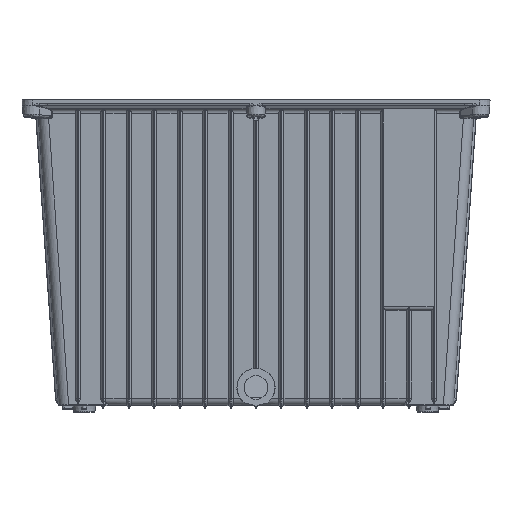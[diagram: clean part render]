
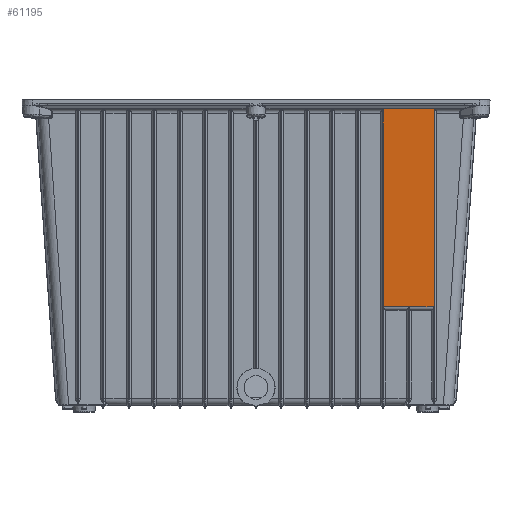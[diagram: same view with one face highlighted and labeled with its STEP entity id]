
A CAD part, top view. The second image highlights one B-rep face of the part: STEP entity #61195.
In plain terms, the highlighted planar face has unit normal (0, -0.07, 0.998).
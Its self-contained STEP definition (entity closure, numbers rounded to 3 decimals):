
#11126=DIRECTION('',(-1.,0.,0.));
#11127=VECTOR('',#11126,40.);
#11128=CARTESIAN_POINT('',(140.,-7.12,134.507));
#11129=LINE('',#11128,#11127);
#18593=DIRECTION('',(1.,0.,0.));
#18594=VECTOR('',#18593,20.);
#18595=CARTESIAN_POINT('',(100.,-162.603,123.635));
#18596=LINE('',#18595,#18594);
#18597=DIRECTION('',(1.,0.,0.));
#18598=VECTOR('',#18597,20.);
#18599=CARTESIAN_POINT('',(120.,-162.603,123.635));
#18600=LINE('',#18599,#18598);
#18743=DIRECTION('',(0.,-0.998,-0.07));
#18744=VECTOR('',#18743,155.863);
#18745=CARTESIAN_POINT('',(100.,-7.12,134.507));
#18746=LINE('',#18745,#18744);
#18769=DIRECTION('',(0.,0.998,0.07));
#18770=VECTOR('',#18769,155.863);
#18771=CARTESIAN_POINT('',(140.,-162.603,123.635));
#18772=LINE('',#18771,#18770);
#33599=CARTESIAN_POINT('',(140.,-7.12,134.507));
#33600=CARTESIAN_POINT('',(100.,-7.12,134.507));
#33601=VERTEX_POINT('',#33599);
#33602=VERTEX_POINT('',#33600);
#33607=CARTESIAN_POINT('',(100.,-162.603,123.635));
#33608=CARTESIAN_POINT('',(120.,-162.603,123.635));
#33609=VERTEX_POINT('',#33607);
#33610=VERTEX_POINT('',#33608);
#33611=CARTESIAN_POINT('',(140.,-162.603,123.635));
#33612=VERTEX_POINT('',#33611);
#61182=CARTESIAN_POINT('',(100.,0.,135.005));
#61183=DIRECTION('',(0.,-0.07,0.998));
#61184=DIRECTION('',(0.,-0.998,-0.07));
#61185=AXIS2_PLACEMENT_3D('',#61182,#61183,#61184);
#61186=PLANE('',#61185);
#61187=ORIENTED_EDGE('',*,*,#51076,.F.);
#61189=ORIENTED_EDGE('',*,*,#61188,.F.);
#61190=ORIENTED_EDGE('',*,*,#60872,.F.);
#61191=ORIENTED_EDGE('',*,*,#60854,.F.);
#61192=ORIENTED_EDGE('',*,*,#61172,.F.);
#61193=EDGE_LOOP('',(#61187,#61189,#61190,#61191,#61192));
#61194=FACE_OUTER_BOUND('',#61193,.F.);
#61195=ADVANCED_FACE('',(#61194),#61186,.T.);
#51076=EDGE_CURVE('',#33601,#33602,#11129,.T.);
#60854=EDGE_CURVE('',#33609,#33610,#18596,.T.);
#60872=EDGE_CURVE('',#33610,#33612,#18600,.T.);
#61172=EDGE_CURVE('',#33602,#33609,#18746,.T.);
#61188=EDGE_CURVE('',#33612,#33601,#18772,.T.);
